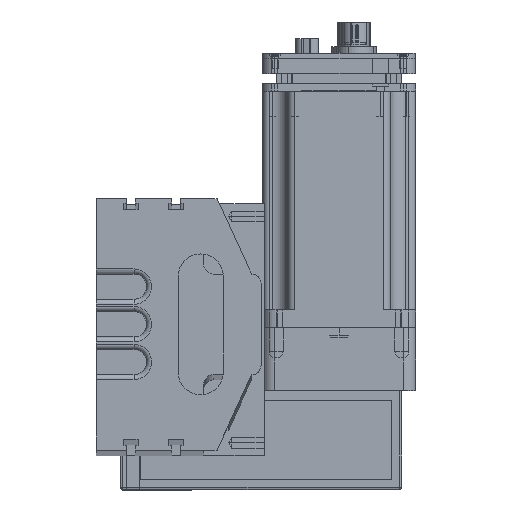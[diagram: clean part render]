
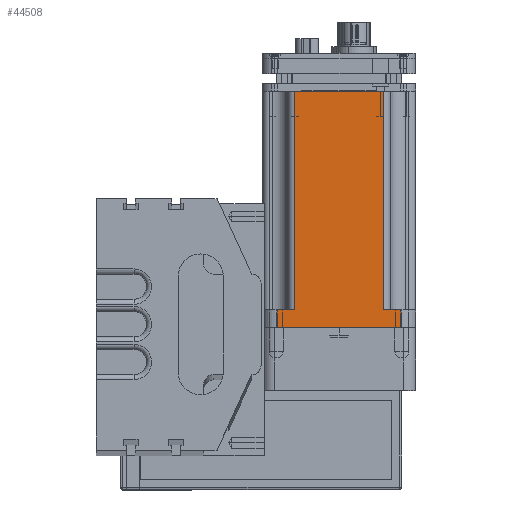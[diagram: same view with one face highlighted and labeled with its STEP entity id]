
A CAD part, top view. The second image highlights one B-rep face of the part: STEP entity #44508.
In plain terms, the highlighted planar face has unit normal (0, 0, 1).
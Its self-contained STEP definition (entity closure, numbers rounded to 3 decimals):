
#181 = EDGE_CURVE ( 'NONE', #189, #185, #13126, .T. ) ;
#185 = VERTEX_POINT ( 'NONE', #13114 ) ;
#189 = VERTEX_POINT ( 'NONE', #13164 ) ;
#449 = VERTEX_POINT ( 'NONE', #13603 ) ;
#1076 = EDGE_CURVE ( 'NONE', #449, #189, #14563, .T. ) ;
#1795 = ORIENTED_EDGE ( 'NONE', *, *, #44568, .F. ) ;
#1818 = ORIENTED_EDGE ( 'NONE', *, *, #1076, .F. ) ;
#1819 = VERTEX_POINT ( 'NONE', #15860 ) ;
#1822 = ORIENTED_EDGE ( 'NONE', *, *, #44548, .T. ) ;
#1823 = EDGE_CURVE ( 'NONE', #44415, #1819, #15865, .T. ) ;
#1825 = VERTEX_POINT ( 'NONE', #15855 ) ;
#1828 = EDGE_CURVE ( 'NONE', #1825, #44415, #15907, .T. ) ;
#13114 = CARTESIAN_POINT ( 'NONE',  ( -17.5, 7., 30.5 ) ) ;
#13117 = DIRECTION ( 'NONE',  ( 1., 0., 0. ) ) ;
#13118 = VECTOR ( 'NONE', #13117, 1000. ) ;
#13119 = CARTESIAN_POINT ( 'NONE',  ( -24.5, 7., 30.5 ) ) ;
#13126 = LINE ( 'NONE', #13119, #13118 ) ;
#13164 = CARTESIAN_POINT ( 'NONE',  ( -24.5, 7., 30.5 ) ) ;
#13603 = CARTESIAN_POINT ( 'NONE',  ( -24.5, 0., 30.5 ) ) ;
#14548 = DIRECTION ( 'NONE',  ( 0., 1., 0. ) ) ;
#14549 = VECTOR ( 'NONE', #14548, 1000. ) ;
#14550 = CARTESIAN_POINT ( 'NONE',  ( -24.5, 7., 30.5 ) ) ;
#14563 = LINE ( 'NONE', #14550, #14549 ) ;
#15853 = DIRECTION ( 'NONE',  ( 0., -1., 0. ) ) ;
#15855 = CARTESIAN_POINT ( 'NONE',  ( 17.5, 7., 30.5 ) ) ;
#15860 = CARTESIAN_POINT ( 'NONE',  ( 24.5, 0., 30.5 ) ) ;
#15863 = VECTOR ( 'NONE', #15853, 1000. ) ;
#15864 = CARTESIAN_POINT ( 'NONE',  ( 24.5, 7., 30.5 ) ) ;
#15865 = LINE ( 'NONE', #15864, #15863 ) ;
#15904 = DIRECTION ( 'NONE',  ( 1., 0., 0. ) ) ;
#15905 = VECTOR ( 'NONE', #15904, 1000. ) ;
#15906 = CARTESIAN_POINT ( 'NONE',  ( -24.5, 7., 30.5 ) ) ;
#15907 = LINE ( 'NONE', #15906, #15905 ) ;
#38679 = CARTESIAN_POINT ( 'NONE',  ( 24.5, 7., 30.5 ) ) ;
#38722 = CARTESIAN_POINT ( 'NONE',  ( -17.5, 94., 30.5 ) ) ;
#38781 = AXIS2_PLACEMENT_3D ( 'NONE', #38801, #38784, #38783 ) ;
#38783 = DIRECTION ( 'NONE',  ( -1., 0., 0. ) ) ;
#38784 = DIRECTION ( 'NONE',  ( 0., 0., -1. ) ) ;
#38787 = FACE_OUTER_BOUND ( 'NONE', #44398, .T. ) ;
#38789 = PLANE ( 'NONE',  #38781 ) ;
#38801 = CARTESIAN_POINT ( 'NONE',  ( -24.5, 7., 30.5 ) ) ;
#38810 = CARTESIAN_POINT ( 'NONE',  ( 17.5, 94., 30.5 ) ) ;
#38848 = DIRECTION ( 'NONE',  ( 0., 1., 0. ) ) ;
#38849 = VECTOR ( 'NONE', #38848, 1000. ) ;
#38859 = DIRECTION ( 'NONE',  ( 1., 0., 0. ) ) ;
#38860 = VECTOR ( 'NONE', #38859, 1000. ) ;
#38861 = CARTESIAN_POINT ( 'NONE',  ( -24.5, 0., 30.5 ) ) ;
#38862 = LINE ( 'NONE', #38861, #38860 ) ;
#38863 = LINE ( 'NONE', #38869, #38849 ) ;
#38869 = CARTESIAN_POINT ( 'NONE',  ( -17.5, 7., 30.5 ) ) ;
#38903 = CARTESIAN_POINT ( 'NONE',  ( 26.5, 94., 30.5 ) ) ;
#38904 = LINE ( 'NONE', #38903, #38941 ) ;
#38906 = CARTESIAN_POINT ( 'NONE',  ( 17.5, 95.35, 30.5 ) ) ;
#38907 = LINE ( 'NONE', #38906, #38929 ) ;
#38928 = DIRECTION ( 'NONE',  ( 0., -1., 0. ) ) ;
#38929 = VECTOR ( 'NONE', #38928, 1000. ) ;
#38940 = DIRECTION ( 'NONE',  ( 1., 0., 0. ) ) ;
#38941 = VECTOR ( 'NONE', #38940, 1000. ) ;
#44398 = EDGE_LOOP ( 'NONE', ( #44438, #44499, #1818, #1822, #44520, #44594, #44516, #1795 ) ) ;
#44415 = VERTEX_POINT ( 'NONE', #38679 ) ;
#44438 = ORIENTED_EDGE ( 'NONE', *, *, #44551, .F. ) ;
#44471 = VERTEX_POINT ( 'NONE', #38722 ) ;
#44495 = VERTEX_POINT ( 'NONE', #38810 ) ;
#44499 = ORIENTED_EDGE ( 'NONE', *, *, #181, .F. ) ;
#44508 = ADVANCED_FACE ( 'NONE', ( #38787 ), #38789, .F. ) ;
#44516 = ORIENTED_EDGE ( 'NONE', *, *, #44592, .F. ) ;
#44520 = ORIENTED_EDGE ( 'NONE', *, *, #1823, .F. ) ;
#44548 = EDGE_CURVE ( 'NONE', #449, #1819, #38862, .T. ) ;
#44551 = EDGE_CURVE ( 'NONE', #185, #44471, #38863, .T. ) ;
#44568 = EDGE_CURVE ( 'NONE', #44471, #44495, #38904, .T. ) ;
#44592 = EDGE_CURVE ( 'NONE', #44495, #1825, #38907, .T. ) ;
#44594 = ORIENTED_EDGE ( 'NONE', *, *, #1828, .F. ) ;
